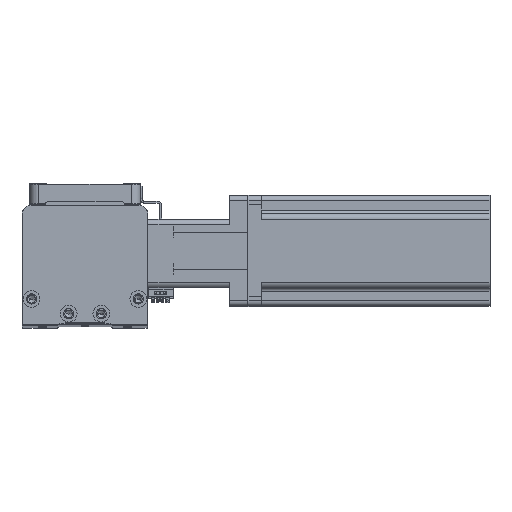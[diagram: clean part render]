
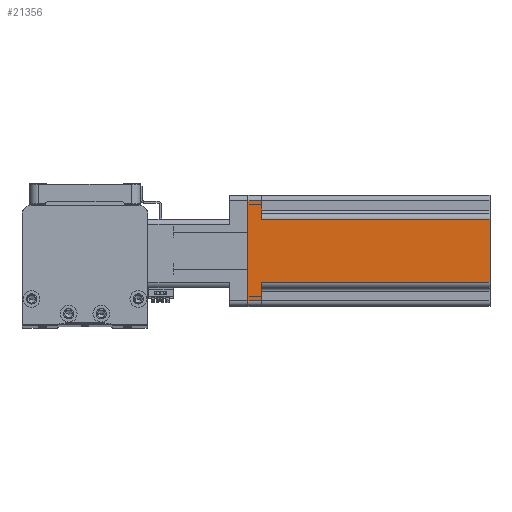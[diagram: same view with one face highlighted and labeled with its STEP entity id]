
A CAD part, top view. The second image highlights one B-rep face of the part: STEP entity #21356.
In plain terms, the highlighted planar face has unit normal (0, 0, 1) as drawn and (1, 0, 0) by its records, which use the part's own axes.
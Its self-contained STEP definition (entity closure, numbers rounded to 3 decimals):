
#397 = DIRECTION ( 'NONE',  ( 0., -1., 0. ) ) ;
#802 = LINE ( 'NONE', #12561, #19552 ) ;
#1211 = EDGE_CURVE ( 'NONE', #14865, #8904, #17972, .T. ) ;
#2619 = FACE_OUTER_BOUND ( 'NONE', #29297, .T. ) ;
#2723 = VERTEX_POINT ( 'NONE', #36703 ) ;
#3243 = EDGE_CURVE ( 'NONE', #14865, #43536, #26521, .T. ) ;
#3312 = EDGE_CURVE ( 'NONE', #43536, #16443, #25416, .T. ) ;
#3485 = EDGE_CURVE ( 'NONE', #16443, #41901, #14597, .T. ) ;
#3770 = EDGE_CURVE ( 'NONE', #13342, #2723, #802, .T. ) ;
#3890 = EDGE_CURVE ( 'NONE', #20859, #2723, #41904, .T. ) ;
#3933 = EDGE_CURVE ( 'NONE', #20859, #8904, #13977, .T. ) ;
#4134 = ORIENTED_EDGE ( 'NONE', *, *, #3890, .F. ) ;
#4299 = DIRECTION ( 'NONE',  ( 0., 1., 0. ) ) ;
#4759 = CARTESIAN_POINT ( 'NONE',  ( 30., -30., 130.7 ) ) ;
#6287 = VECTOR ( 'NONE', #43564, 1000. ) ;
#6340 = ORIENTED_EDGE ( 'NONE', *, *, #3485, .T. ) ;
#7417 = DIRECTION ( 'NONE',  ( -1., 0., 0. ) ) ;
#8234 = ORIENTED_EDGE ( 'NONE', *, *, #45176, .T. ) ;
#8904 = VERTEX_POINT ( 'NONE', #17319 ) ;
#9036 = ORIENTED_EDGE ( 'NONE', *, *, #3312, .T. ) ;
#9307 = ORIENTED_EDGE ( 'NONE', *, *, #3770, .T. ) ;
#12561 = CARTESIAN_POINT ( 'NONE',  ( 30., 27., 130.7 ) ) ;
#12857 = VECTOR ( 'NONE', #13182, 1000. ) ;
#13182 = DIRECTION ( 'NONE',  ( 0., 0., 1. ) ) ;
#13342 = VERTEX_POINT ( 'NONE', #33033 ) ;
#13492 = VECTOR ( 'NONE', #26553, 1000. ) ;
#13764 = CARTESIAN_POINT ( 'NONE',  ( 30., -17., 7.5 ) ) ;
#13977 = LINE ( 'NONE', #34259, #12857 ) ;
#14597 = LINE ( 'NONE', #37022, #13492 ) ;
#14865 = VERTEX_POINT ( 'NONE', #44392 ) ;
#15666 = LINE ( 'NONE', #22743, #6287 ) ;
#16443 = VERTEX_POINT ( 'NONE', #42460 ) ;
#17156 = VECTOR ( 'NONE', #45177, 1000. ) ;
#17319 = CARTESIAN_POINT ( 'NONE',  ( 30., 17., 130.7 ) ) ;
#17972 = LINE ( 'NONE', #4759, #26226 ) ;
#19552 = VECTOR ( 'NONE', #23228, 1000. ) ;
#20859 = VERTEX_POINT ( 'NONE', #32571 ) ;
#21356 = ADVANCED_FACE ( 'NONE', ( #2619 ), #28406, .F. ) ;
#22308 = ORIENTED_EDGE ( 'NONE', *, *, #1211, .F. ) ;
#22743 = CARTESIAN_POINT ( 'NONE',  ( 30., -30., 0. ) ) ;
#23228 = DIRECTION ( 'NONE',  ( 0., 0., 1. ) ) ;
#23377 = VECTOR ( 'NONE', #44472, 1000. ) ;
#25416 = LINE ( 'NONE', #31917, #42804 ) ;
#26226 = VECTOR ( 'NONE', #4299, 1000. ) ;
#26521 = LINE ( 'NONE', #13764, #17156 ) ;
#26553 = DIRECTION ( 'NONE',  ( 0., 0., -1. ) ) ;
#28406 = PLANE ( 'NONE',  #43453 ) ;
#28559 = CARTESIAN_POINT ( 'NONE',  ( 30., -30., 130.7 ) ) ;
#29297 = EDGE_LOOP ( 'NONE', ( #22308, #29478, #9036, #6340, #8234, #9307, #4134, #30595 ) ) ;
#29478 = ORIENTED_EDGE ( 'NONE', *, *, #3243, .T. ) ;
#29575 = CARTESIAN_POINT ( 'NONE',  ( 30., -27., 0. ) ) ;
#30595 = ORIENTED_EDGE ( 'NONE', *, *, #3933, .T. ) ;
#31917 = CARTESIAN_POINT ( 'NONE',  ( 30., -30., 7.5 ) ) ;
#32056 = DIRECTION ( 'NONE',  ( 0., 0., 1. ) ) ;
#32571 = CARTESIAN_POINT ( 'NONE',  ( 30., 17., 7.5 ) ) ;
#33033 = CARTESIAN_POINT ( 'NONE',  ( 30., 27., 0. ) ) ;
#34259 = CARTESIAN_POINT ( 'NONE',  ( 30., 17., 130.7 ) ) ;
#36703 = CARTESIAN_POINT ( 'NONE',  ( 30., 27., 7.5 ) ) ;
#37022 = CARTESIAN_POINT ( 'NONE',  ( 30., -27., 130.7 ) ) ;
#39498 = CARTESIAN_POINT ( 'NONE',  ( 30., -17., 7.5 ) ) ;
#41020 = CARTESIAN_POINT ( 'NONE',  ( 30., 30., 7.5 ) ) ;
#41901 = VERTEX_POINT ( 'NONE', #29575 ) ;
#41904 = LINE ( 'NONE', #41020, #23377 ) ;
#42460 = CARTESIAN_POINT ( 'NONE',  ( 30., -27., 7.5 ) ) ;
#42804 = VECTOR ( 'NONE', #397, 1000. ) ;
#43453 = AXIS2_PLACEMENT_3D ( 'NONE', #28559, #7417, #32056 ) ;
#43536 = VERTEX_POINT ( 'NONE', #39498 ) ;
#43564 = DIRECTION ( 'NONE',  ( 0., 1., 0. ) ) ;
#44392 = CARTESIAN_POINT ( 'NONE',  ( 30., -17., 130.7 ) ) ;
#44472 = DIRECTION ( 'NONE',  ( 0., 1., 0. ) ) ;
#45176 = EDGE_CURVE ( 'NONE', #41901, #13342, #15666, .T. ) ;
#45177 = DIRECTION ( 'NONE',  ( 0., 0., -1. ) ) ;
